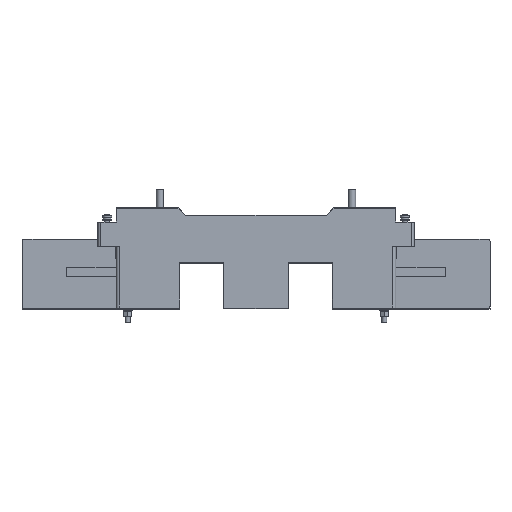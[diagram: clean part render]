
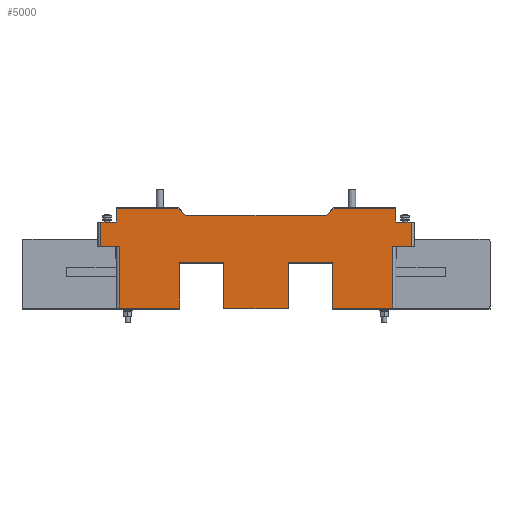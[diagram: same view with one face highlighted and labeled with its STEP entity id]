
A CAD part, front view. The second image highlights one B-rep face of the part: STEP entity #5000.
In plain terms, the highlighted planar face has unit normal (0, -1, 0).
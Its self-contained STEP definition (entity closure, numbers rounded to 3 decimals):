
#2363=FACE_OUTER_BOUND('',#21285,.T.);
#5000=ADVANCED_FACE('',(#2363),#7794,.T.);
#7794=PLANE('',#54583);
#11188=LINE('',#78610,#16562);
#11443=LINE('',#79326,#16817);
#11444=LINE('',#79329,#16818);
#11445=LINE('',#79331,#16819);
#11446=LINE('',#79333,#16820);
#11447=LINE('',#79335,#16821);
#11448=LINE('',#79337,#16822);
#11449=LINE('',#79339,#16823);
#11450=LINE('',#79341,#16824);
#11451=LINE('',#79342,#16825);
#11452=LINE('',#79344,#16826);
#11453=LINE('',#79346,#16827);
#11454=LINE('',#79348,#16828);
#11455=LINE('',#79350,#16829);
#11456=LINE('',#79354,#16830);
#11457=LINE('',#79356,#16831);
#11458=LINE('',#79358,#16832);
#11459=LINE('',#79360,#16833);
#11460=LINE('',#79362,#16834);
#11461=LINE('',#79366,#16835);
#11462=LINE('',#79368,#16836);
#11463=LINE('',#79370,#16837);
#11464=LINE('',#79372,#16838);
#11465=LINE('',#79374,#16839);
#16562=VECTOR('',#62496,1.);
#16817=VECTOR('',#63047,1.);
#16818=VECTOR('',#63048,1.);
#16819=VECTOR('',#63049,1.);
#16820=VECTOR('',#63050,1.);
#16821=VECTOR('',#63051,1.);
#16822=VECTOR('',#63052,1.);
#16823=VECTOR('',#63053,1.);
#16824=VECTOR('',#63054,1.);
#16825=VECTOR('',#63055,1.);
#16826=VECTOR('',#63056,1.);
#16827=VECTOR('',#63057,1.);
#16828=VECTOR('',#63058,1.);
#16829=VECTOR('',#63059,1.);
#16830=VECTOR('',#63062,1.);
#16831=VECTOR('',#63063,1.);
#16832=VECTOR('',#63064,1.);
#16833=VECTOR('',#63065,1.);
#16834=VECTOR('',#63066,1.);
#16835=VECTOR('',#63069,1.);
#16836=VECTOR('',#63070,1.);
#16837=VECTOR('',#63071,1.);
#16838=VECTOR('',#63072,1.);
#16839=VECTOR('',#63073,1.);
#21285=EDGE_LOOP('',(#27732,#27733,#27734,#27735,#27736,#27737,#27738,#27739,
#27740,#27741,#27742,#27743,#27744,#27745,#27746,#27747,#27748,#27749,#27750,
#27751,#27752,#27753,#27754,#27755,#27756,#27757));
#27732=ORIENTED_EDGE('',*,*,#46933,.F.);
#27733=ORIENTED_EDGE('',*,*,#46934,.T.);
#27734=ORIENTED_EDGE('',*,*,#46935,.T.);
#27735=ORIENTED_EDGE('',*,*,#46936,.T.);
#27736=ORIENTED_EDGE('',*,*,#46937,.T.);
#27737=ORIENTED_EDGE('',*,*,#46938,.T.);
#27738=ORIENTED_EDGE('',*,*,#46939,.T.);
#27739=ORIENTED_EDGE('',*,*,#46940,.T.);
#27740=ORIENTED_EDGE('',*,*,#46568,.T.);
#27741=ORIENTED_EDGE('',*,*,#46941,.T.);
#27742=ORIENTED_EDGE('',*,*,#46942,.F.);
#27743=ORIENTED_EDGE('',*,*,#46943,.T.);
#27744=ORIENTED_EDGE('',*,*,#46944,.T.);
#27745=ORIENTED_EDGE('',*,*,#46945,.T.);
#27746=ORIENTED_EDGE('',*,*,#46946,.F.);
#27747=ORIENTED_EDGE('',*,*,#46947,.T.);
#27748=ORIENTED_EDGE('',*,*,#46948,.T.);
#27749=ORIENTED_EDGE('',*,*,#46949,.T.);
#27750=ORIENTED_EDGE('',*,*,#46950,.T.);
#27751=ORIENTED_EDGE('',*,*,#46951,.T.);
#27752=ORIENTED_EDGE('',*,*,#46952,.F.);
#27753=ORIENTED_EDGE('',*,*,#46953,.T.);
#27754=ORIENTED_EDGE('',*,*,#46954,.T.);
#27755=ORIENTED_EDGE('',*,*,#46955,.T.);
#27756=ORIENTED_EDGE('',*,*,#46956,.T.);
#27757=ORIENTED_EDGE('',*,*,#46957,.T.);
#41070=VERTEX_POINT('',#78609);
#41071=VERTEX_POINT('',#78611);
#41384=VERTEX_POINT('',#79327);
#41385=VERTEX_POINT('',#79328);
#41386=VERTEX_POINT('',#79330);
#41387=VERTEX_POINT('',#79332);
#41388=VERTEX_POINT('',#79334);
#41389=VERTEX_POINT('',#79336);
#41390=VERTEX_POINT('',#79338);
#41391=VERTEX_POINT('',#79340);
#41392=VERTEX_POINT('',#79343);
#41393=VERTEX_POINT('',#79345);
#41394=VERTEX_POINT('',#79347);
#41395=VERTEX_POINT('',#79349);
#41396=VERTEX_POINT('',#79351);
#41397=VERTEX_POINT('',#79353);
#41398=VERTEX_POINT('',#79355);
#41399=VERTEX_POINT('',#79357);
#41400=VERTEX_POINT('',#79359);
#41401=VERTEX_POINT('',#79361);
#41402=VERTEX_POINT('',#79363);
#41403=VERTEX_POINT('',#79365);
#41404=VERTEX_POINT('',#79367);
#41405=VERTEX_POINT('',#79369);
#41406=VERTEX_POINT('',#79371);
#41407=VERTEX_POINT('',#79373);
#46568=EDGE_CURVE('',#41071,#41070,#11188,.T.);
#46933=EDGE_CURVE('',#41384,#41385,#11443,.T.);
#46934=EDGE_CURVE('',#41384,#41386,#11444,.T.);
#46935=EDGE_CURVE('',#41386,#41387,#11445,.T.);
#46936=EDGE_CURVE('',#41387,#41388,#11446,.T.);
#46937=EDGE_CURVE('',#41388,#41389,#11447,.T.);
#46938=EDGE_CURVE('',#41389,#41390,#11448,.T.);
#46939=EDGE_CURVE('',#41390,#41391,#11449,.T.);
#46940=EDGE_CURVE('',#41391,#41071,#11450,.T.);
#46941=EDGE_CURVE('',#41070,#41392,#11451,.T.);
#46942=EDGE_CURVE('',#41393,#41392,#11452,.T.);
#46943=EDGE_CURVE('',#41393,#41394,#11453,.T.);
#46944=EDGE_CURVE('',#41394,#41395,#11454,.T.);
#46945=EDGE_CURVE('',#41395,#41396,#11455,.T.);
#46946=EDGE_CURVE('',#41397,#41396,#52117,.T.);
#46947=EDGE_CURVE('',#41397,#41398,#11456,.T.);
#46948=EDGE_CURVE('',#41398,#41399,#11457,.T.);
#46949=EDGE_CURVE('',#41399,#41400,#11458,.T.);
#46950=EDGE_CURVE('',#41400,#41401,#11459,.T.);
#46951=EDGE_CURVE('',#41401,#41402,#11460,.T.);
#46952=EDGE_CURVE('',#41403,#41402,#52118,.T.);
#46953=EDGE_CURVE('',#41403,#41404,#11461,.T.);
#46954=EDGE_CURVE('',#41404,#41405,#11462,.T.);
#46955=EDGE_CURVE('',#41405,#41406,#11463,.T.);
#46956=EDGE_CURVE('',#41406,#41407,#11464,.T.);
#46957=EDGE_CURVE('',#41407,#41385,#11465,.T.);
#52117=CIRCLE('',#54581,1.);
#52118=CIRCLE('',#54582,1.);
#54581=AXIS2_PLACEMENT_3D('',#79352,#63060,#63061);
#54582=AXIS2_PLACEMENT_3D('',#79364,#63067,#63068);
#54583=AXIS2_PLACEMENT_3D('',#79375,#63074,#63075);
#62496=DIRECTION('',(-1.,0.,0.));
#63047=DIRECTION('',(1.,0.,0.));
#63048=DIRECTION('',(0.,0.,1.));
#63049=DIRECTION('',(-1.,0.,0.));
#63050=DIRECTION('',(-0.707,0.,-0.707));
#63051=DIRECTION('',(-1.,0.,0.));
#63052=DIRECTION('',(-0.707,0.,0.707));
#63053=DIRECTION('',(-1.,0.,0.));
#63054=DIRECTION('',(0.,0.,-1.));
#63055=DIRECTION('',(0.,0.,-1.));
#63056=DIRECTION('',(-1.,0.,0.));
#63057=DIRECTION('',(0.,0.,-1.));
#63058=DIRECTION('',(1.,0.,0.));
#63059=DIRECTION('',(0.,0.,1.));
#63060=DIRECTION('',(0.,-1.,0.));
#63061=DIRECTION('',(0.,0.,-1.));
#63062=DIRECTION('',(1.,0.,0.));
#63063=DIRECTION('',(0.,0.,-1.));
#63064=DIRECTION('',(1.,0.,0.));
#63065=DIRECTION('',(0.,0.,1.));
#63066=DIRECTION('',(1.,0.,0.));
#63067=DIRECTION('',(0.,-1.,0.));
#63068=DIRECTION('',(0.,0.,-1.));
#63069=DIRECTION('',(0.,0.,-1.));
#63070=DIRECTION('',(1.,0.,0.));
#63071=DIRECTION('',(0.,0.,1.));
#63072=DIRECTION('',(1.,0.,0.));
#63073=DIRECTION('',(0.,0.,1.));
#63074=DIRECTION('',(0.,-1.,0.));
#63075=DIRECTION('',(0.,0.,-1.));
#78609=CARTESIAN_POINT('',(-16.,0.,90.));
#78610=CARTESIAN_POINT('',(-19.,0.,90.));
#78611=CARTESIAN_POINT('',(0.5,0.,90.));
#79326=CARTESIAN_POINT('',(310.,0.,90.));
#79327=CARTESIAN_POINT('',(290.5,0.,90.));
#79328=CARTESIAN_POINT('',(307.,0.,90.));
#79329=CARTESIAN_POINT('',(290.5,0.,0.));
#79330=CARTESIAN_POINT('',(290.5,0.,104.5));
#79331=CARTESIAN_POINT('',(145.5,0.,104.5));
#79332=CARTESIAN_POINT('',(226.707,0.,104.5));
#79333=CARTESIAN_POINT('',(218.854,0.,96.646));
#79334=CARTESIAN_POINT('',(218.707,0.,96.5));
#79335=CARTESIAN_POINT('',(72.5,0.,96.5));
#79336=CARTESIAN_POINT('',(72.293,0.,96.5));
#79337=CARTESIAN_POINT('',(64.146,0.,104.646));
#79338=CARTESIAN_POINT('',(64.293,0.,104.5));
#79339=CARTESIAN_POINT('',(145.5,0.,104.5));
#79340=CARTESIAN_POINT('',(0.5,0.,104.5));
#79341=CARTESIAN_POINT('',(0.5,0.,0.));
#79342=CARTESIAN_POINT('',(-16.,0.,0.));
#79343=CARTESIAN_POINT('',(-16.,0.,65.));
#79344=CARTESIAN_POINT('',(-19.,0.,65.));
#79345=CARTESIAN_POINT('',(3.,0.,65.));
#79346=CARTESIAN_POINT('',(3.,0.,0.));
#79347=CARTESIAN_POINT('',(3.,0.,0.5));
#79348=CARTESIAN_POINT('',(145.5,0.,0.5));
#79349=CARTESIAN_POINT('',(65.5,0.,0.5));
#79350=CARTESIAN_POINT('',(65.5,0.,47.));
#79351=CARTESIAN_POINT('',(65.5,0.,46.5));
#79352=CARTESIAN_POINT('',(66.5,0.,46.5));
#79353=CARTESIAN_POINT('',(66.5,0.,47.5));
#79354=CARTESIAN_POINT('',(111.5,0.,47.5));
#79355=CARTESIAN_POINT('',(112.,0.,47.5));
#79356=CARTESIAN_POINT('',(112.,0.,0.));
#79357=CARTESIAN_POINT('',(112.,0.,0.5));
#79358=CARTESIAN_POINT('',(179.5,0.,0.5));
#79359=CARTESIAN_POINT('',(179.,0.,0.5));
#79360=CARTESIAN_POINT('',(179.,0.,0.));
#79361=CARTESIAN_POINT('',(179.,0.,47.5));
#79362=CARTESIAN_POINT('',(225.,0.,47.5));
#79363=CARTESIAN_POINT('',(224.5,0.,47.5));
#79364=CARTESIAN_POINT('',(224.5,0.,46.5));
#79365=CARTESIAN_POINT('',(225.5,0.,46.5));
#79366=CARTESIAN_POINT('',(225.5,0.,0.));
#79367=CARTESIAN_POINT('',(225.5,0.,0.5));
#79368=CARTESIAN_POINT('',(145.5,0.,0.5));
#79369=CARTESIAN_POINT('',(288.,0.,0.5));
#79370=CARTESIAN_POINT('',(288.,0.,0.));
#79371=CARTESIAN_POINT('',(288.,0.,65.));
#79372=CARTESIAN_POINT('',(310.,0.,65.));
#79373=CARTESIAN_POINT('',(307.,0.,65.));
#79374=CARTESIAN_POINT('',(307.,0.,0.));
#79375=CARTESIAN_POINT('',(145.5,0.,0.));
